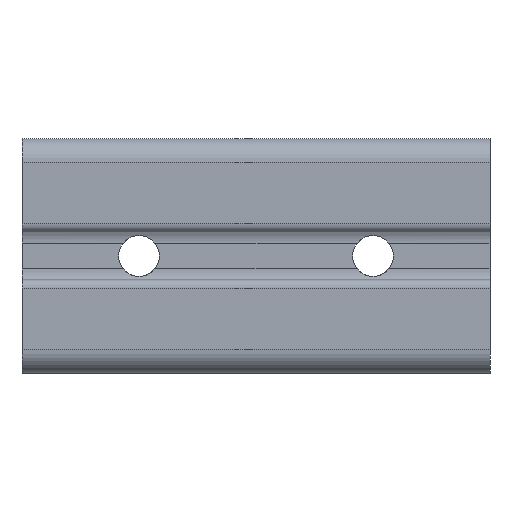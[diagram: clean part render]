
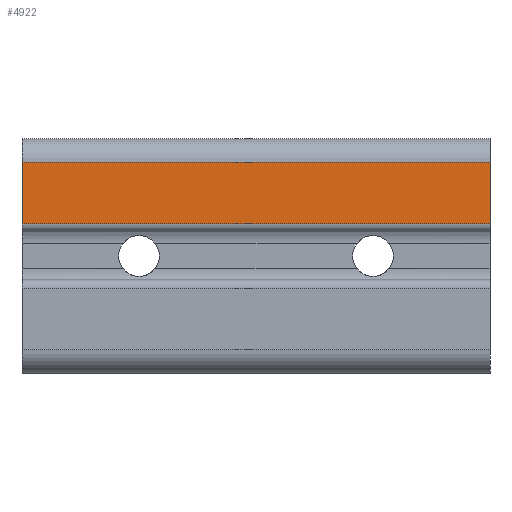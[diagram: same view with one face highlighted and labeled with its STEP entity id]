
A CAD part, left-side view. The second image highlights one B-rep face of the part: STEP entity #4922.
In plain terms, the highlighted planar face has unit normal (-1, 0, 0).
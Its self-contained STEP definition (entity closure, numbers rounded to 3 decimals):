
#157 = EDGE_CURVE ( 'NONE', #5062, #681, #2429, .T. ) ;
#190 = CARTESIAN_POINT ( 'NONE',  ( 0., 40., 36. ) ) ;
#318 = ORIENTED_EDGE ( 'NONE', *, *, #840, .T. ) ;
#529 = CARTESIAN_POINT ( 'NONE',  ( 0., 40., 16.646 ) ) ;
#595 = CARTESIAN_POINT ( 'NONE',  ( 0., 40., 4. ) ) ;
#625 = EDGE_LOOP ( 'NONE', ( #318, #4959, #2598, #5957 ) ) ;
#681 = VERTEX_POINT ( 'NONE', #5008 ) ;
#689 = EDGE_CURVE ( 'NONE', #681, #4771, #4007, .T. ) ;
#840 = EDGE_CURVE ( 'NONE', #5062, #1588, #3968, .T. ) ;
#1000 = DIRECTION ( 'NONE',  ( 0., 0., -1. ) ) ;
#1588 = VERTEX_POINT ( 'NONE', #190 ) ;
#1667 = PLANE ( 'NONE',  #2630 ) ;
#1810 = VECTOR ( 'NONE', #1000, 1000. ) ;
#2045 = CARTESIAN_POINT ( 'NONE',  ( 0., 40., 25.5 ) ) ;
#2113 = LINE ( 'NONE', #529, #1810 ) ;
#2429 = LINE ( 'NONE', #4471, #6058 ) ;
#2542 = DIRECTION ( 'NONE',  ( 0., 1., 0. ) ) ;
#2598 = ORIENTED_EDGE ( 'NONE', *, *, #689, .F. ) ;
#2630 = AXIS2_PLACEMENT_3D ( 'NONE', #595, #4683, #4207 ) ;
#3747 = VECTOR ( 'NONE', #2542, 1000. ) ;
#3765 = FACE_OUTER_BOUND ( 'NONE', #625, .T. ) ;
#3968 = LINE ( 'NONE', #5555, #5940 ) ;
#4007 = LINE ( 'NONE', #2045, #3747 ) ;
#4207 = DIRECTION ( 'NONE',  ( 0., 0., 1. ) ) ;
#4391 = DIRECTION ( 'NONE',  ( 0., 1., 0. ) ) ;
#4471 = CARTESIAN_POINT ( 'NONE',  ( 0., -40., 16.646 ) ) ;
#4559 = EDGE_CURVE ( 'NONE', #1588, #4771, #2113, .T. ) ;
#4683 = DIRECTION ( 'NONE',  ( -1., 0., 0. ) ) ;
#4771 = VERTEX_POINT ( 'NONE', #5981 ) ;
#4922 = ADVANCED_FACE ( 'NONE', ( #3765 ), #1667, .T. ) ;
#4959 = ORIENTED_EDGE ( 'NONE', *, *, #4559, .T. ) ;
#5008 = CARTESIAN_POINT ( 'NONE',  ( 0., -40., 25.5 ) ) ;
#5062 = VERTEX_POINT ( 'NONE', #6420 ) ;
#5083 = DIRECTION ( 'NONE',  ( 0., 0., -1. ) ) ;
#5555 = CARTESIAN_POINT ( 'NONE',  ( 0., 40., 36. ) ) ;
#5940 = VECTOR ( 'NONE', #4391, 1000. ) ;
#5957 = ORIENTED_EDGE ( 'NONE', *, *, #157, .F. ) ;
#5981 = CARTESIAN_POINT ( 'NONE',  ( 0., 40., 25.5 ) ) ;
#6058 = VECTOR ( 'NONE', #5083, 1000. ) ;
#6420 = CARTESIAN_POINT ( 'NONE',  ( 0., -40., 36. ) ) ;
